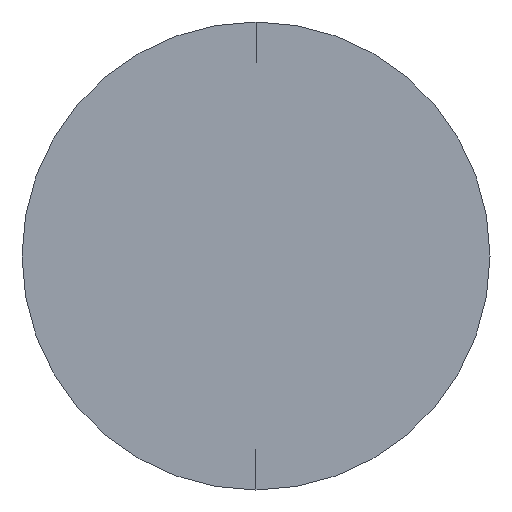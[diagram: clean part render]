
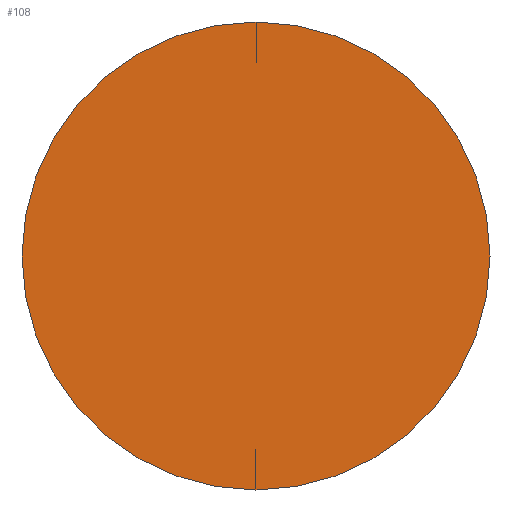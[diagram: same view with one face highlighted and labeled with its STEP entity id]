
A CAD part, left-side view. The second image highlights one B-rep face of the part: STEP entity #108.
In plain terms, the highlighted planar face has unit normal (-1, 0, 0).
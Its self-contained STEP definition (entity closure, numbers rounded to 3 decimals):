
#9 = AXIS2_PLACEMENT_3D ( 'NONE', #43, #42, #134 ) ;
#11 = VERTEX_POINT ( 'NONE', #105 ) ;
#12 = EDGE_LOOP ( 'NONE', ( #234, #275 ) ) ;
#42 = DIRECTION ( 'NONE',  ( -1., 0., 0. ) ) ;
#43 = CARTESIAN_POINT ( 'NONE',  ( 0., 0., 0. ) ) ;
#44 = DIRECTION ( 'NONE',  ( 0., 0., 1. ) ) ;
#53 = CIRCLE ( 'NONE', #9, 1. ) ;
#105 = CARTESIAN_POINT ( 'NONE',  ( 0., 0., 1. ) ) ;
#107 = DIRECTION ( 'NONE',  ( 0., 0., -1. ) ) ;
#108 = ADVANCED_FACE ( 'NONE', ( #254 ), #276, .F. ) ;
#129 = EDGE_CURVE ( 'NONE', #170, #11, #172, .T. ) ;
#133 = CARTESIAN_POINT ( 'NONE',  ( 0., 0., 0. ) ) ;
#134 = DIRECTION ( 'NONE',  ( 0., 0., 1. ) ) ;
#165 = EDGE_CURVE ( 'NONE', #11, #170, #53, .T. ) ;
#170 = VERTEX_POINT ( 'NONE', #291 ) ;
#172 = CIRCLE ( 'NONE', #236, 1. ) ;
#217 = DIRECTION ( 'NONE',  ( 1., 0., 0. ) ) ;
#234 = ORIENTED_EDGE ( 'NONE', *, *, #165, .T. ) ;
#236 = AXIS2_PLACEMENT_3D ( 'NONE', #133, #263, #44 ) ;
#254 = FACE_OUTER_BOUND ( 'NONE', #12, .T. ) ;
#255 = AXIS2_PLACEMENT_3D ( 'NONE', #277, #217, #107 ) ;
#263 = DIRECTION ( 'NONE',  ( -1., 0., 0. ) ) ;
#275 = ORIENTED_EDGE ( 'NONE', *, *, #129, .T. ) ;
#276 = PLANE ( 'NONE',  #255 ) ;
#277 = CARTESIAN_POINT ( 'NONE',  ( 0., 0., 0. ) ) ;
#291 = CARTESIAN_POINT ( 'NONE',  ( 0., 0., -1. ) ) ;
